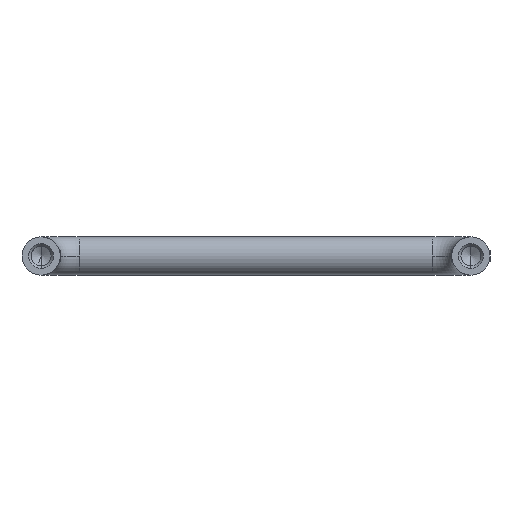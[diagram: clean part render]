
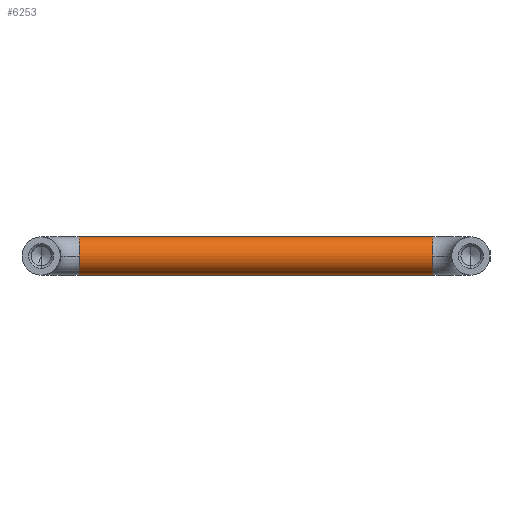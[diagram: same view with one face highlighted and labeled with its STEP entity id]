
A CAD part, front view. The second image highlights one B-rep face of the part: STEP entity #6253.
In plain terms, the highlighted cylindrical face has radius 4 mm (diameter 8 mm), a partial arc.
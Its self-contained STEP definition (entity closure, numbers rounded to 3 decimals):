
#128 = AXIS2_PLACEMENT_3D ( 'NONE', #1666, #4203, #9732 ) ;
#160 = ORIENTED_EDGE ( 'NONE', *, *, #4050, .T. ) ;
#193 = CARTESIAN_POINT ( 'NONE',  ( -37., 36., -4. ) ) ;
#484 = DIRECTION ( 'NONE',  ( 1., 0., 0. ) ) ;
#752 = DIRECTION ( 'NONE',  ( 1., 0., 0. ) ) ;
#1450 = CARTESIAN_POINT ( 'NONE',  ( -37., 36., 0. ) ) ;
#1499 = FACE_OUTER_BOUND ( 'NONE', #7023, .T. ) ;
#1666 = CARTESIAN_POINT ( 'NONE',  ( 37., 36., 0. ) ) ;
#1684 = CARTESIAN_POINT ( 'NONE',  ( 37., 36., 4. ) ) ;
#1724 = DIRECTION ( 'NONE',  ( -1., 0., 0. ) ) ;
#2026 = DIRECTION ( 'NONE',  ( -1., 0., 0. ) ) ;
#2048 = VECTOR ( 'NONE', #752, 1000. ) ;
#2072 = DIRECTION ( 'NONE',  ( 0., 0., 1. ) ) ;
#2157 = AXIS2_PLACEMENT_3D ( 'NONE', #9103, #2026, #2072 ) ;
#2889 = VECTOR ( 'NONE', #484, 1000. ) ;
#2922 = VERTEX_POINT ( 'NONE', #5683 ) ;
#3046 = ORIENTED_EDGE ( 'NONE', *, *, #7375, .T. ) ;
#3569 = EDGE_CURVE ( 'NONE', #5453, #6146, #10204, .T. ) ;
#3585 = CARTESIAN_POINT ( 'NONE',  ( 37., 36., -4. ) ) ;
#3741 = DIRECTION ( 'NONE',  ( 0., 0., -1. ) ) ;
#4050 = EDGE_CURVE ( 'NONE', #6631, #8844, #4267, .T. ) ;
#4203 = DIRECTION ( 'NONE',  ( -1., 0., 0. ) ) ;
#4267 = CIRCLE ( 'NONE', #128, 4. ) ;
#4439 = EDGE_CURVE ( 'NONE', #6146, #2922, #4812, .T. ) ;
#4663 = DIRECTION ( 'NONE',  ( 1., 0., 0. ) ) ;
#4812 = CIRCLE ( 'NONE', #2157, 4. ) ;
#4882 = DIRECTION ( 'NONE',  ( 0., 0., 1. ) ) ;
#4893 = DIRECTION ( 'NONE',  ( 0., 0., 1. ) ) ;
#4918 = CARTESIAN_POINT ( 'NONE',  ( 37., 32., 0. ) ) ;
#5246 = AXIS2_PLACEMENT_3D ( 'NONE', #7986, #9694, #4893 ) ;
#5453 = VERTEX_POINT ( 'NONE', #193 ) ;
#5616 = LINE ( 'NONE', #7828, #2048 ) ;
#5683 = CARTESIAN_POINT ( 'NONE',  ( -37., 36., 4. ) ) ;
#5837 = AXIS2_PLACEMENT_3D ( 'NONE', #1450, #4663, #3741 ) ;
#6038 = ORIENTED_EDGE ( 'NONE', *, *, #8726, .T. ) ;
#6088 = ORIENTED_EDGE ( 'NONE', *, *, #3569, .F. ) ;
#6146 = VERTEX_POINT ( 'NONE', #8175 ) ;
#6253 = ADVANCED_FACE ( 'NONE', ( #1499 ), #10190, .T. ) ;
#6492 = AXIS2_PLACEMENT_3D ( 'NONE', #8801, #1724, #4882 ) ;
#6611 = ORIENTED_EDGE ( 'NONE', *, *, #4439, .F. ) ;
#6631 = VERTEX_POINT ( 'NONE', #4918 ) ;
#7023 = EDGE_LOOP ( 'NONE', ( #9077, #6611, #6088, #6038, #3046, #160 ) ) ;
#7375 = EDGE_CURVE ( 'NONE', #10079, #6631, #10134, .T. ) ;
#7828 = CARTESIAN_POINT ( 'NONE',  ( -37., 36., -4. ) ) ;
#7986 = CARTESIAN_POINT ( 'NONE',  ( -37., 36., 0. ) ) ;
#8175 = CARTESIAN_POINT ( 'NONE',  ( -37., 32., 0. ) ) ;
#8726 = EDGE_CURVE ( 'NONE', #5453, #10079, #5616, .T. ) ;
#8801 = CARTESIAN_POINT ( 'NONE',  ( 37., 36., 0. ) ) ;
#8844 = VERTEX_POINT ( 'NONE', #1684 ) ;
#9077 = ORIENTED_EDGE ( 'NONE', *, *, #9933, .F. ) ;
#9103 = CARTESIAN_POINT ( 'NONE',  ( -37., 36., 0. ) ) ;
#9112 = CARTESIAN_POINT ( 'NONE',  ( -37., 36., 4. ) ) ;
#9694 = DIRECTION ( 'NONE',  ( -1., 0., 0. ) ) ;
#9732 = DIRECTION ( 'NONE',  ( 0., 0., 1. ) ) ;
#9933 = EDGE_CURVE ( 'NONE', #2922, #8844, #10047, .T. ) ;
#10047 = LINE ( 'NONE', #9112, #2889 ) ;
#10079 = VERTEX_POINT ( 'NONE', #3585 ) ;
#10134 = CIRCLE ( 'NONE', #6492, 4. ) ;
#10190 = CYLINDRICAL_SURFACE ( 'NONE', #5837, 4. ) ;
#10204 = CIRCLE ( 'NONE', #5246, 4. ) ;
